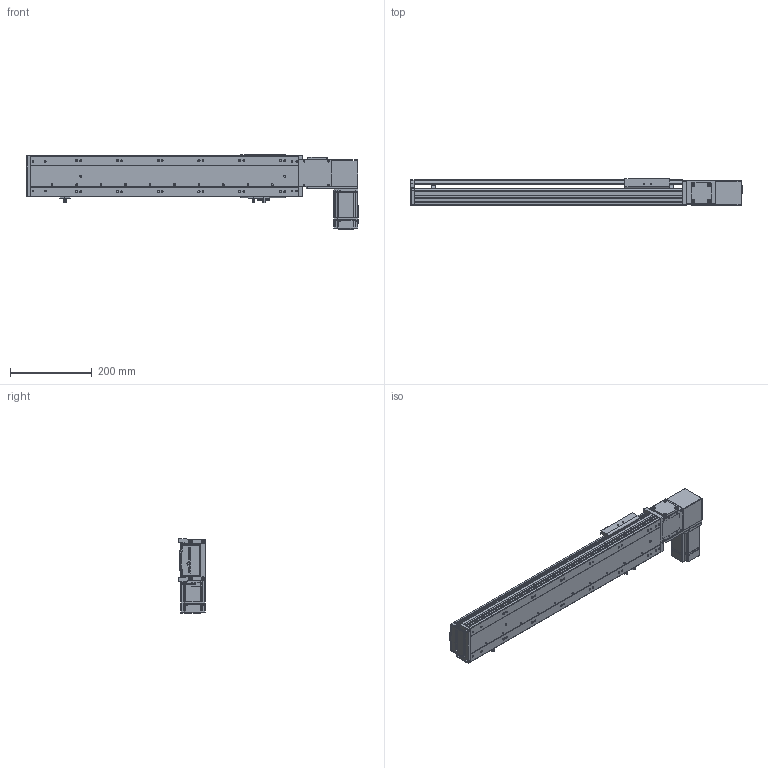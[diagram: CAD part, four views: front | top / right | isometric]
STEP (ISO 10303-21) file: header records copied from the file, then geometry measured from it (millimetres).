
FILE_DESCRIPTION (( 'STEP AP203' ), '1' );
FILE_NAME ('RY100-T-300-LK.SLDASM_450.step', '2024-04-25T05:36:47', ( '盈信电脑' ), ( '东莞市道滘镇水果街19号' ), 'SwSTEP 2.0', 'SolidWorks 2016', '' );
FILE_SCHEMA (( 'CONFIG_CONTROL_DESIGN' ));
Length unit declared in the file: millimetre
Products named in the file (14): RY100-T肮祭謫臏賑輸; 1; RY80-T肮祭謫俋欶; 覜茼ん672; RY100-T肮祭謫翋盓傅釱; RY100-T翋肮祭謫裔啣2; RY100-T粣創揤踡裔; RY100-T左右折电机安装板; RY100-T-300-LK.SLDASM_450; RY100俋离覜茼え; RY100-T-300-RK倰第菁釱_450; RY100-T-300-RK倰第奻裔_450; 滅袉蝶18-10; RY100綴裔啣
Assembly tree (17 placements, depth 2):
  RY100-T-300-LK.SLDASM_450
    RY100-T-300-RK倰第菁釱_450
    RY100-T-300-RK倰第奻裔_450
    RY100-T肮祭謫臏賑輸
    RY100綴裔啣
    覜茼ん672  x3
    RY100俋离覜茼え
    RY100-T肮祭謫翋盓傅釱
    滅袉蝶18-10  x2
    RY100-T翋肮祭謫裔啣2  x2
    RY80-T肮祭謫俋欶
    RY100-T左右折电机安装板
    1
    RY100-T粣創揤踡裔
Bounding box: 814 x 66 x 182.5 mm (x, y, z)
Volume: 1746916.2 mm3; surface area: 688471 mm2
Topology: 17 solids, 17 shells, 2143 faces, 5950 edges, 3866 vertices
Faces by surface type: plane 1185, cylinder 751, cone 129, bspline 78
Entity records: 68037 total; most frequent: CARTESIAN_POINT 16409, ORIENTED_EDGE 10636, DIRECTION 10106, EDGE_CURVE 5318, VERTEX_POINT 3502, LINE 3482, VECTOR 3482, AXIS2_PLACEMENT_3D 3312
